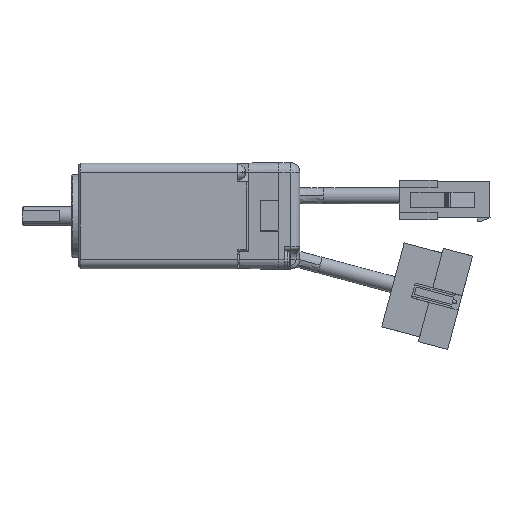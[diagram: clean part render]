
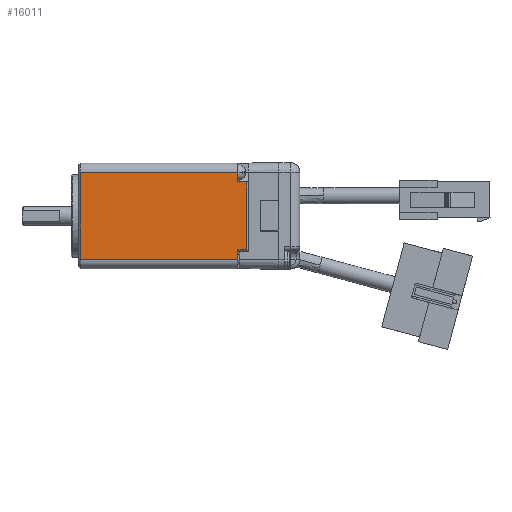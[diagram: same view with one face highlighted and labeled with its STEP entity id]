
A CAD part, front view. The second image highlights one B-rep face of the part: STEP entity #16011.
In plain terms, the highlighted planar face has unit normal (0, -1, 0) as drawn and (0, 1, 0) by its records, which use the part's own axes.
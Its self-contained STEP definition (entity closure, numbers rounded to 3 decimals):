
#564 = LINE ( 'NONE', #16575, #25065 ) ;
#665 = EDGE_CURVE ( 'NONE', #31942, #19147, #30053, .T. ) ;
#1067 = CARTESIAN_POINT ( 'NONE',  ( 0.951, 35.349, 2.8 ) ) ;
#1251 = LINE ( 'NONE', #1067, #13907 ) ;
#1328 = EDGE_CURVE ( 'NONE', #14498, #10000, #19350, .T. ) ;
#1703 = VERTEX_POINT ( 'NONE', #21992 ) ;
#1926 = ORIENTED_EDGE ( 'NONE', *, *, #7481, .F. ) ;
#2780 = CARTESIAN_POINT ( 'NONE',  ( 18.751, 35.349, 7. ) ) ;
#3191 = DIRECTION ( 'NONE',  ( 0., 1., 0. ) ) ;
#3233 = LINE ( 'NONE', #32546, #16674 ) ;
#3280 = ORIENTED_EDGE ( 'NONE', *, *, #10137, .T. ) ;
#3627 = DIRECTION ( 'NONE',  ( 1., 0., 0. ) ) ;
#3725 = ORIENTED_EDGE ( 'NONE', *, *, #27111, .T. ) ;
#3975 = DIRECTION ( 'NONE',  ( 0., 0., -1. ) ) ;
#4559 = VERTEX_POINT ( 'NONE', #24301 ) ;
#4953 = CARTESIAN_POINT ( 'NONE',  ( 21.251, 35.349, 2.8 ) ) ;
#5135 = VECTOR ( 'NONE', #15287, 1000. ) ;
#5228 = VERTEX_POINT ( 'NONE', #26057 ) ;
#5339 = DIRECTION ( 'NONE',  ( 0., 0., -1. ) ) ;
#6136 = LINE ( 'NONE', #2780, #18757 ) ;
#6441 = ORIENTED_EDGE ( 'NONE', *, *, #12596, .F. ) ;
#6869 = ORIENTED_EDGE ( 'NONE', *, *, #665, .T. ) ;
#6960 = FACE_OUTER_BOUND ( 'NONE', #23403, .T. ) ;
#7237 = EDGE_CURVE ( 'NONE', #19147, #1703, #6136, .T. ) ;
#7481 = EDGE_CURVE ( 'NONE', #14498, #21337, #564, .T. ) ;
#8160 = CARTESIAN_POINT ( 'NONE',  ( 21.251, 35.349, 0.5 ) ) ;
#8355 = DIRECTION ( 'NONE',  ( 0., 0., -1. ) ) ;
#9400 = ORIENTED_EDGE ( 'NONE', *, *, #18194, .F. ) ;
#9543 = VECTOR ( 'NONE', #14958, 1000. ) ;
#10000 = VERTEX_POINT ( 'NONE', #12006 ) ;
#10137 = EDGE_CURVE ( 'NONE', #10000, #31942, #29678, .T. ) ;
#12006 = CARTESIAN_POINT ( 'NONE',  ( 21.251, 35.349, 44.5 ) ) ;
#12433 = CARTESIAN_POINT ( 'NONE',  ( 21.251, 35.349, 0.5 ) ) ;
#12596 = EDGE_CURVE ( 'NONE', #4559, #5228, #30329, .T. ) ;
#13251 = PLANE ( 'NONE',  #21081 ) ;
#13907 = VECTOR ( 'NONE', #3627, 1000. ) ;
#14498 = VERTEX_POINT ( 'NONE', #21502 ) ;
#14691 = CARTESIAN_POINT ( 'NONE',  ( 21.251, 35.349, 2.8 ) ) ;
#14958 = DIRECTION ( 'NONE',  ( 0., 0., -1. ) ) ;
#15287 = DIRECTION ( 'NONE',  ( 1., 0., 0. ) ) ;
#16011 = ADVANCED_FACE ( 'NONE', ( #6960 ), #13251, .T. ) ;
#16575 = CARTESIAN_POINT ( 'NONE',  ( -1.749, 35.349, 2.8 ) ) ;
#16674 = VECTOR ( 'NONE', #30006, 1000. ) ;
#16898 = VECTOR ( 'NONE', #8355, 1000. ) ;
#18194 = EDGE_CURVE ( 'NONE', #21337, #4559, #1251, .T. ) ;
#18449 = CARTESIAN_POINT ( 'NONE',  ( -1.749, 35.349, 2.8 ) ) ;
#18757 = VECTOR ( 'NONE', #5339, 1000. ) ;
#19147 = VERTEX_POINT ( 'NONE', #31814 ) ;
#19350 = LINE ( 'NONE', #27976, #5135 ) ;
#19843 = ORIENTED_EDGE ( 'NONE', *, *, #7237, .T. ) ;
#20846 = DIRECTION ( 'NONE',  ( 0., 0., 1. ) ) ;
#21081 = AXIS2_PLACEMENT_3D ( 'NONE', #8160, #3191, #20846 ) ;
#21337 = VERTEX_POINT ( 'NONE', #18449 ) ;
#21502 = CARTESIAN_POINT ( 'NONE',  ( -1.749, 35.349, 44.5 ) ) ;
#21992 = CARTESIAN_POINT ( 'NONE',  ( 18.751, 35.349, 0.5 ) ) ;
#23403 = EDGE_LOOP ( 'NONE', ( #19843, #3725, #6441, #9400, #1926, #31148, #3280, #6869 ) ) ;
#23478 = CARTESIAN_POINT ( 'NONE',  ( 0.751, 35.349, 7. ) ) ;
#24301 = CARTESIAN_POINT ( 'NONE',  ( 0.751, 35.349, 2.8 ) ) ;
#25065 = VECTOR ( 'NONE', #3975, 1000. ) ;
#26057 = CARTESIAN_POINT ( 'NONE',  ( 0.751, 35.349, 0.5 ) ) ;
#27111 = EDGE_CURVE ( 'NONE', #1703, #5228, #3233, .T. ) ;
#27976 = CARTESIAN_POINT ( 'NONE',  ( 21.251, 35.349, 44.5 ) ) ;
#29245 = VECTOR ( 'NONE', #30223, 1000. ) ;
#29678 = LINE ( 'NONE', #12433, #9543 ) ;
#30006 = DIRECTION ( 'NONE',  ( -1., 0., 0. ) ) ;
#30053 = LINE ( 'NONE', #4953, #29245 ) ;
#30223 = DIRECTION ( 'NONE',  ( -1., 0., 0. ) ) ;
#30329 = LINE ( 'NONE', #23478, #16898 ) ;
#31148 = ORIENTED_EDGE ( 'NONE', *, *, #1328, .T. ) ;
#31814 = CARTESIAN_POINT ( 'NONE',  ( 18.751, 35.349, 2.8 ) ) ;
#31942 = VERTEX_POINT ( 'NONE', #14691 ) ;
#32546 = CARTESIAN_POINT ( 'NONE',  ( 21.251, 35.349, 0.5 ) ) ;
